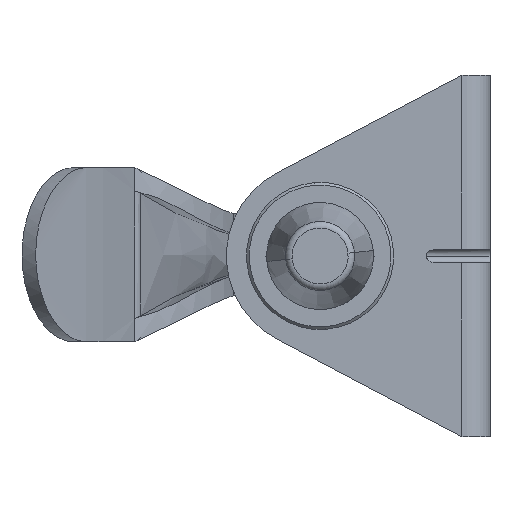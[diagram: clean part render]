
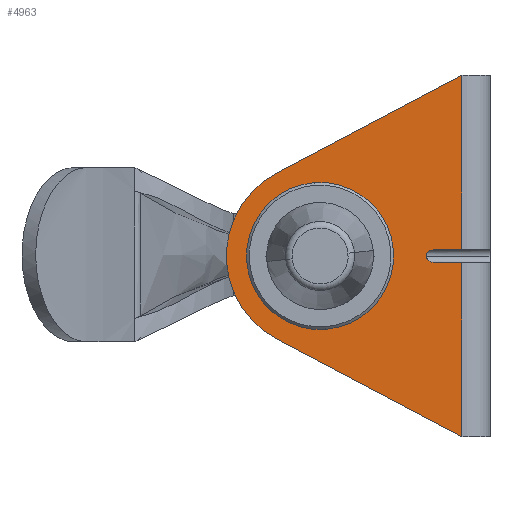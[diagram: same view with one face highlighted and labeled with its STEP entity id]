
A CAD part, left-side view. The second image highlights one B-rep face of the part: STEP entity #4963.
In plain terms, the highlighted planar face has unit normal (-1, 0, 0).
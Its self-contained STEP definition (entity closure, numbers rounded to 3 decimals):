
#103 = VERTEX_POINT ( 'NONE', #840 ) ;
#151 = CARTESIAN_POINT ( 'NONE',  ( -2., 17.7, 0.5 ) ) ;
#304 = EDGE_CURVE ( 'NONE', #3187, #6370, #3817, .T. ) ;
#368 = ORIENTED_EDGE ( 'NONE', *, *, #4255, .F. ) ;
#411 = ORIENTED_EDGE ( 'NONE', *, *, #304, .F. ) ;
#462 = DIRECTION ( 'NONE',  ( 1., 0., 0. ) ) ;
#519 = ORIENTED_EDGE ( 'NONE', *, *, #527, .F. ) ;
#527 = EDGE_CURVE ( 'NONE', #6324, #627, #4275, .T. ) ;
#566 = DIRECTION ( 'NONE',  ( 0., 0., -1. ) ) ;
#627 = VERTEX_POINT ( 'NONE', #5069 ) ;
#715 = AXIS2_PLACEMENT_3D ( 'NONE', #2991, #7057, #3586 ) ;
#765 = EDGE_CURVE ( 'NONE', #6324, #4165, #3740, .T. ) ;
#840 = CARTESIAN_POINT ( 'NONE',  ( -2., 2.059, 0.5 ) ) ;
#853 = ORIENTED_EDGE ( 'NONE', *, *, #1620, .T. ) ;
#858 = CARTESIAN_POINT ( 'NONE',  ( -2., 17.7, -0.5 ) ) ;
#1015 = CARTESIAN_POINT ( 'NONE',  ( -2., 2.473, -0.5 ) ) ;
#1053 = EDGE_CURVE ( 'NONE', #627, #4018, #2681, .T. ) ;
#1064 = CARTESIAN_POINT ( 'NONE',  ( -2., 2.766, 0. ) ) ;
#1126 = CARTESIAN_POINT ( 'NONE',  ( -2., 2.059, -0.5 ) ) ;
#1198 = DIRECTION ( 'NONE',  ( 0., -0.885, 0.466 ) ) ;
#1248 = VERTEX_POINT ( 'NONE', #4366 ) ;
#1495 = LINE ( 'NONE', #151, #4625 ) ;
#1547 = AXIS2_PLACEMENT_3D ( 'NONE', #6595, #6923, #5105 ) ;
#1594 = CARTESIAN_POINT ( 'NONE',  ( -2., 2.059, -0.5 ) ) ;
#1620 = EDGE_CURVE ( 'NONE', #3187, #1248, #2487, .T. ) ;
#1862 = LINE ( 'NONE', #4678, #6347 ) ;
#1881 = EDGE_CURVE ( 'NONE', #4165, #103, #3979, .T. ) ;
#1906 = ORIENTED_EDGE ( 'NONE', *, *, #1881, .T. ) ;
#1952 = LINE ( 'NONE', #4269, #5075 ) ;
#2330 = ORIENTED_EDGE ( 'NONE', *, *, #4437, .T. ) ;
#2474 = DIRECTION ( 'NONE',  ( 0., -0.885, -0.466 ) ) ;
#2487 = CIRCLE ( 'NONE', #1547, 7. ) ;
#2509 = CARTESIAN_POINT ( 'NONE',  ( -2., 10.7, 0. ) ) ;
#2681 = LINE ( 'NONE', #4618, #4267 ) ;
#2745 = CARTESIAN_POINT ( 'NONE',  ( -2., 10.7, -4.2 ) ) ;
#2747 = CARTESIAN_POINT ( 'NONE',  ( -2., 2.766, 0. ) ) ;
#2991 = CARTESIAN_POINT ( 'NONE',  ( -2., 10.7, 0. ) ) ;
#3052 = DIRECTION ( 'NONE',  ( 0., -1., 0. ) ) ;
#3093 = EDGE_LOOP ( 'NONE', ( #6148, #6740 ) ) ;
#3116 = DIRECTION ( 'NONE',  ( 0., 0., 1. ) ) ;
#3185 = VERTEX_POINT ( 'NONE', #2745 ) ;
#3187 = VERTEX_POINT ( 'NONE', #6230 ) ;
#3234 = ORIENTED_EDGE ( 'NONE', *, *, #5668, .T. ) ;
#3586 = DIRECTION ( 'NONE',  ( 0., 0., 1. ) ) ;
#3740 =( BOUNDED_CURVE ( )  B_SPLINE_CURVE ( 3, ( #1594, #1015, #6879, #1064 ),
 .UNSPECIFIED., .F., .F. ) 
 B_SPLINE_CURVE_WITH_KNOTS ( ( 4, 4 ),
 ( 1.571, 3.142 ),
 .UNSPECIFIED. ) 
 CURVE ( )  GEOMETRIC_REPRESENTATION_ITEM ( )  RATIONAL_B_SPLINE_CURVE ( ( 1., 0.805, 0.805, 1. ) ) 
 REPRESENTATION_ITEM ( '' )  );
#3817 = LINE ( 'NONE', #5852, #5360 ) ;
#3964 = PLANE ( 'NONE',  #5923 ) ;
#3979 =( BOUNDED_CURVE ( )  B_SPLINE_CURVE ( 3, ( #2747, #5263, #4566, #6516 ),
 .UNSPECIFIED., .F., .F. ) 
 B_SPLINE_CURVE_WITH_KNOTS ( ( 4, 4 ),
 ( 3.142, 4.712 ),
 .UNSPECIFIED. ) 
 CURVE ( )  GEOMETRIC_REPRESENTATION_ITEM ( )  RATIONAL_B_SPLINE_CURVE ( ( 1., 0.805, 0.805, 1. ) ) 
 REPRESENTATION_ITEM ( '' )  );
#4018 = VERTEX_POINT ( 'NONE', #4816 ) ;
#4165 = VERTEX_POINT ( 'NONE', #4288 ) ;
#4255 = EDGE_CURVE ( 'NONE', #6370, #7382, #1862, .T. ) ;
#4267 = VECTOR ( 'NONE', #566, 1000. ) ;
#4269 = CARTESIAN_POINT ( 'NONE',  ( -2., 5.59, -10.606 ) ) ;
#4275 = LINE ( 'NONE', #858, #5804 ) ;
#4288 = CARTESIAN_POINT ( 'NONE',  ( -2., 2.766, 0. ) ) ;
#4366 = CARTESIAN_POINT ( 'NONE',  ( -2., 13.964, -6.192 ) ) ;
#4437 = EDGE_CURVE ( 'NONE', #1248, #4018, #1952, .T. ) ;
#4536 = DIRECTION ( 'NONE',  ( 0., 1., 0. ) ) ;
#4566 = CARTESIAN_POINT ( 'NONE',  ( -2., 2.473, 0.5 ) ) ;
#4618 = CARTESIAN_POINT ( 'NONE',  ( -2., 0.1, 13.5 ) ) ;
#4625 = VECTOR ( 'NONE', #3052, 1000. ) ;
#4678 = CARTESIAN_POINT ( 'NONE',  ( -2., 0.1, 13.5 ) ) ;
#4816 = CARTESIAN_POINT ( 'NONE',  ( -2., 0.1, -13.5 ) ) ;
#4948 = CIRCLE ( 'NONE', #5786, 4.2 ) ;
#4950 = DIRECTION ( 'NONE',  ( 0., -1., 0. ) ) ;
#4963 = ADVANCED_FACE ( 'NONE', ( #7256, #5893 ), #3964, .F. ) ;
#5069 = CARTESIAN_POINT ( 'NONE',  ( -2., 0.1, -0.5 ) ) ;
#5075 = VECTOR ( 'NONE', #2474, 1000. ) ;
#5105 = DIRECTION ( 'NONE',  ( 0., 0., 1. ) ) ;
#5202 = DIRECTION ( 'NONE',  ( 0., 0., -1. ) ) ;
#5263 = CARTESIAN_POINT ( 'NONE',  ( -2., 2.766, 0.293 ) ) ;
#5360 = VECTOR ( 'NONE', #1198, 1000. ) ;
#5504 = CIRCLE ( 'NONE', #715, 4.2 ) ;
#5561 = ORIENTED_EDGE ( 'NONE', *, *, #765, .T. ) ;
#5668 = EDGE_CURVE ( 'NONE', #103, #7382, #1495, .T. ) ;
#5749 = CARTESIAN_POINT ( 'NONE',  ( -2., 0.1, 0.5 ) ) ;
#5786 = AXIS2_PLACEMENT_3D ( 'NONE', #2509, #6602, #3116 ) ;
#5804 = VECTOR ( 'NONE', #4950, 1000. ) ;
#5852 = CARTESIAN_POINT ( 'NONE',  ( -2., 5.59, 10.606 ) ) ;
#5893 = FACE_OUTER_BOUND ( 'NONE', #6079, .T. ) ;
#5923 = AXIS2_PLACEMENT_3D ( 'NONE', #6239, #462, #4536 ) ;
#6079 = EDGE_LOOP ( 'NONE', ( #519, #5561, #1906, #3234, #368, #411, #853, #2330, #6100 ) ) ;
#6100 = ORIENTED_EDGE ( 'NONE', *, *, #1053, .F. ) ;
#6148 = ORIENTED_EDGE ( 'NONE', *, *, #6434, .F. ) ;
#6230 = CARTESIAN_POINT ( 'NONE',  ( -2., 13.964, 6.192 ) ) ;
#6239 = CARTESIAN_POINT ( 'NONE',  ( -2., 17.7, 13.5 ) ) ;
#6324 = VERTEX_POINT ( 'NONE', #1126 ) ;
#6347 = VECTOR ( 'NONE', #5202, 1000. ) ;
#6370 = VERTEX_POINT ( 'NONE', #6987 ) ;
#6434 = EDGE_CURVE ( 'NONE', #7486, #3185, #5504, .T. ) ;
#6468 = CARTESIAN_POINT ( 'NONE',  ( -2., 10.7, 4.2 ) ) ;
#6516 = CARTESIAN_POINT ( 'NONE',  ( -2., 2.059, 0.5 ) ) ;
#6573 = EDGE_CURVE ( 'NONE', #3185, #7486, #4948, .T. ) ;
#6595 = CARTESIAN_POINT ( 'NONE',  ( -2., 10.7, 0. ) ) ;
#6602 = DIRECTION ( 'NONE',  ( -1., 0., 0. ) ) ;
#6740 = ORIENTED_EDGE ( 'NONE', *, *, #6573, .F. ) ;
#6879 = CARTESIAN_POINT ( 'NONE',  ( -2., 2.766, -0.293 ) ) ;
#6923 = DIRECTION ( 'NONE',  ( -1., 0., 0. ) ) ;
#6987 = CARTESIAN_POINT ( 'NONE',  ( -2., 0.1, 13.5 ) ) ;
#7057 = DIRECTION ( 'NONE',  ( -1., 0., 0. ) ) ;
#7256 = FACE_BOUND ( 'NONE', #3093, .T. ) ;
#7382 = VERTEX_POINT ( 'NONE', #5749 ) ;
#7486 = VERTEX_POINT ( 'NONE', #6468 ) ;
